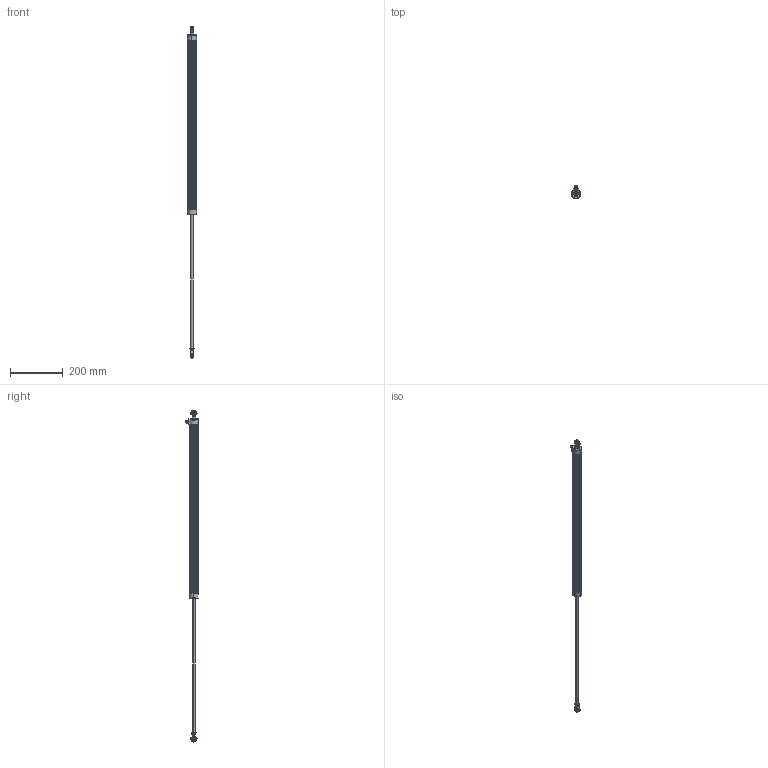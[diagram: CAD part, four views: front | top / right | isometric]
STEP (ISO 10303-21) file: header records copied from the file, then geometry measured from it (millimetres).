
FILE_DESCRIPTION (( 'STEP AP214' ), '1' );
FILE_NAME ('0500.STEP', '2009-01-29T10:08:22', ( 'novotechnik' ), ( 'novotechnik' ), 'SwSTEP 2.0', 'SolidWorks 2009', '' );
FILE_SCHEMA (( 'AUTOMOTIVE_DESIGN' ));
Length unit declared in the file: millimetre
Products named in the file (3): 0500; 0500_Bew
Assembly tree (2 placements, depth 2):
  0500
    0500
    0500_Bew
Bounding box: 35.03 x 49.52 x 1263.6 mm (x, y, z)
Volume: 692624.5 mm3; surface area: 136424.8 mm2
Topology: 16 solids, 16 shells, 996 faces, 2527 edges, 1581 vertices
Faces by surface type: cylinder 326, plane 294, bspline 187, cone 169, torus 12, sphere 8
Entity records: 50868 total; most frequent: CARTESIAN_POINT 17017, ORIENTED_EDGE 5026, DIRECTION 4525, EDGE_CURVE 2513, AXIS2_PLACEMENT_3D 1757, VERTEX_POINT 1581, EDGE_LOOP 1064, VECTOR 1011
